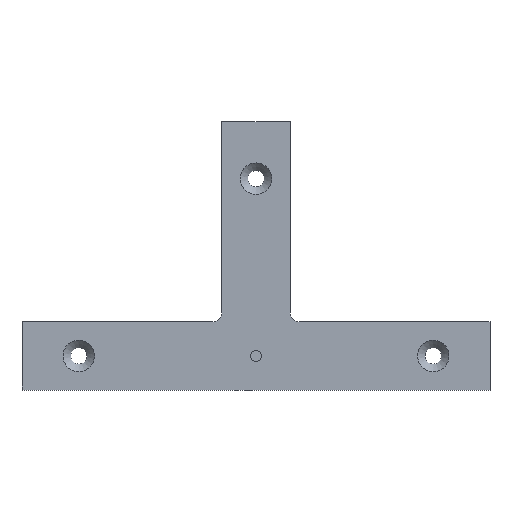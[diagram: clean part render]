
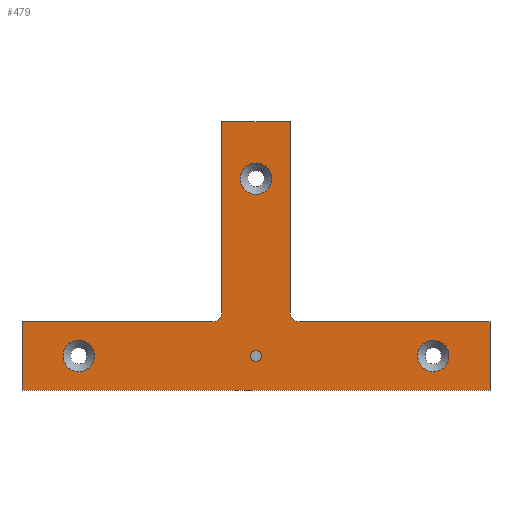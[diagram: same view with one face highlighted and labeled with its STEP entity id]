
A CAD part, top view. The second image highlights one B-rep face of the part: STEP entity #479.
In plain terms, the highlighted planar face has unit normal (0, 0, 1).
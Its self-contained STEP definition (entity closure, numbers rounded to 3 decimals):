
#29=CIRCLE('',#505,1.23);
#30=CIRCLE('',#506,3.47);
#31=CIRCLE('',#507,3.47);
#32=CIRCLE('',#508,3.47);
#33=CIRCLE('',#509,2.);
#34=CIRCLE('',#510,2.);
#76=ORIENTED_EDGE('',*,*,#152,.T.);
#77=ORIENTED_EDGE('',*,*,#153,.T.);
#78=ORIENTED_EDGE('',*,*,#154,.T.);
#79=ORIENTED_EDGE('',*,*,#155,.T.);
#80=ORIENTED_EDGE('',*,*,#128,.F.);
#81=ORIENTED_EDGE('',*,*,#151,.F.);
#82=ORIENTED_EDGE('',*,*,#156,.T.);
#83=ORIENTED_EDGE('',*,*,#146,.F.);
#84=ORIENTED_EDGE('',*,*,#144,.F.);
#85=ORIENTED_EDGE('',*,*,#141,.F.);
#86=ORIENTED_EDGE('',*,*,#157,.T.);
#87=ORIENTED_EDGE('',*,*,#136,.F.);
#88=ORIENTED_EDGE('',*,*,#134,.F.);
#89=ORIENTED_EDGE('',*,*,#131,.F.);
#128=EDGE_CURVE('',#169,#170,#200,.T.);
#131=EDGE_CURVE('',#170,#172,#203,.T.);
#134=EDGE_CURVE('',#172,#174,#206,.T.);
#136=EDGE_CURVE('',#174,#175,#208,.T.);
#141=EDGE_CURVE('',#179,#180,#213,.T.);
#144=EDGE_CURVE('',#180,#182,#216,.T.);
#146=EDGE_CURVE('',#182,#183,#218,.T.);
#151=EDGE_CURVE('',#186,#169,#223,.T.);
#152=EDGE_CURVE('',#187,#187,#29,.T.);
#153=EDGE_CURVE('',#188,#188,#30,.T.);
#154=EDGE_CURVE('',#189,#189,#31,.T.);
#155=EDGE_CURVE('',#190,#190,#32,.T.);
#156=EDGE_CURVE('',#186,#183,#33,.T.);
#157=EDGE_CURVE('',#179,#175,#34,.T.);
#169=VERTEX_POINT('',#635);
#170=VERTEX_POINT('',#637);
#172=VERTEX_POINT('',#643);
#174=VERTEX_POINT('',#649);
#175=VERTEX_POINT('',#653);
#179=VERTEX_POINT('',#662);
#180=VERTEX_POINT('',#664);
#182=VERTEX_POINT('',#670);
#183=VERTEX_POINT('',#674);
#186=VERTEX_POINT('',#682);
#187=VERTEX_POINT('',#686);
#188=VERTEX_POINT('',#688);
#189=VERTEX_POINT('',#690);
#190=VERTEX_POINT('',#692);
#200=LINE('',#636,#226);
#203=LINE('',#642,#229);
#206=LINE('',#648,#232);
#208=LINE('',#652,#234);
#213=LINE('',#663,#239);
#216=LINE('',#669,#242);
#218=LINE('',#673,#244);
#223=LINE('',#683,#249);
#226=VECTOR('',#537,1000.);
#229=VECTOR('',#542,1000.);
#232=VECTOR('',#547,1000.);
#234=VECTOR('',#551,1000.);
#239=VECTOR('',#558,1000.);
#242=VECTOR('',#563,1000.);
#244=VECTOR('',#567,1000.);
#249=VECTOR('',#574,1000.);
#258=EDGE_LOOP('',(#76));
#259=EDGE_LOOP('',(#77));
#260=EDGE_LOOP('',(#78));
#261=EDGE_LOOP('',(#79));
#262=EDGE_LOOP('',(#80,#81,#82,#83,#84,#85,#86,#87,#88,#89));
#292=FACE_BOUND('',#258,.T.);
#293=FACE_BOUND('',#259,.T.);
#294=FACE_BOUND('',#260,.T.);
#295=FACE_BOUND('',#261,.T.);
#296=FACE_BOUND('',#262,.T.);
#326=PLANE('',#504);
#479=ADVANCED_FACE('',(#292,#293,#294,#295,#296),#326,.F.);
#504=AXIS2_PLACEMENT_3D('',#684,#575,#576);
#505=AXIS2_PLACEMENT_3D('',#685,#577,#578);
#506=AXIS2_PLACEMENT_3D('',#687,#579,#580);
#507=AXIS2_PLACEMENT_3D('',#689,#581,#582);
#508=AXIS2_PLACEMENT_3D('',#691,#583,#584);
#509=AXIS2_PLACEMENT_3D('',#693,#585,#586);
#510=AXIS2_PLACEMENT_3D('',#694,#587,#588);
#537=DIRECTION('',(0.,-1.,0.));
#542=DIRECTION('',(-1.,0.,0.));
#547=DIRECTION('',(0.,1.,0.));
#551=DIRECTION('',(1.,0.,0.));
#558=DIRECTION('',(0.,1.,0.));
#563=DIRECTION('',(1.,0.,0.));
#567=DIRECTION('',(0.,-1.,0.));
#574=DIRECTION('',(1.,0.,0.));
#575=DIRECTION('',(0.,0.,-1.));
#576=DIRECTION('',(-1.,0.,0.));
#577=DIRECTION('',(0.,0.,-1.));
#578=DIRECTION('',(0.,-1.,0.));
#579=DIRECTION('',(0.,0.,-1.));
#580=DIRECTION('',(0.,1.,0.));
#581=DIRECTION('',(0.,0.,-1.));
#582=DIRECTION('',(0.,1.,0.));
#583=DIRECTION('',(0.,0.,-1.));
#584=DIRECTION('',(0.,1.,0.));
#585=DIRECTION('',(0.,0.,-1.));
#586=DIRECTION('',(-1.,0.,0.));
#587=DIRECTION('',(0.,0.,-1.));
#588=DIRECTION('',(-1.,0.,0.));
#635=CARTESIAN_POINT('',(51.5,7.5,8.));
#636=CARTESIAN_POINT('',(51.5,7.5,8.));
#637=CARTESIAN_POINT('',(51.5,-7.5,8.));
#642=CARTESIAN_POINT('',(51.5,-7.5,8.));
#643=CARTESIAN_POINT('',(-51.5,-7.5,8.));
#648=CARTESIAN_POINT('',(-51.5,-7.5,8.));
#649=CARTESIAN_POINT('',(-51.5,7.5,8.));
#652=CARTESIAN_POINT('',(-51.5,7.5,8.));
#653=CARTESIAN_POINT('',(-9.5,7.5,8.));
#662=CARTESIAN_POINT('',(-7.5,9.5,8.));
#663=CARTESIAN_POINT('',(-7.5,51.5,8.));
#664=CARTESIAN_POINT('',(-7.5,51.5,8.));
#669=CARTESIAN_POINT('',(7.5,51.5,8.));
#670=CARTESIAN_POINT('',(7.5,51.5,8.));
#673=CARTESIAN_POINT('',(7.5,51.5,8.));
#674=CARTESIAN_POINT('',(7.5,9.5,8.));
#682=CARTESIAN_POINT('',(9.5,7.5,8.));
#683=CARTESIAN_POINT('',(7.5,7.5,8.));
#684=CARTESIAN_POINT('',(0.,0.,8.));
#685=CARTESIAN_POINT('',(0.,0.,8.));
#686=CARTESIAN_POINT('',(0.,-1.23,8.));
#687=CARTESIAN_POINT('',(0.,39.,8.));
#688=CARTESIAN_POINT('',(0.,42.47,8.));
#689=CARTESIAN_POINT('',(39.,0.,8.));
#690=CARTESIAN_POINT('',(39.,3.47,8.));
#691=CARTESIAN_POINT('',(-39.,0.,8.));
#692=CARTESIAN_POINT('',(-39.,3.47,8.));
#693=CARTESIAN_POINT('',(9.5,9.5,8.));
#694=CARTESIAN_POINT('',(-9.5,9.5,8.));
